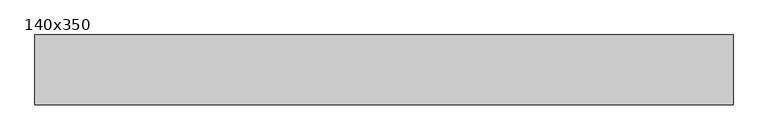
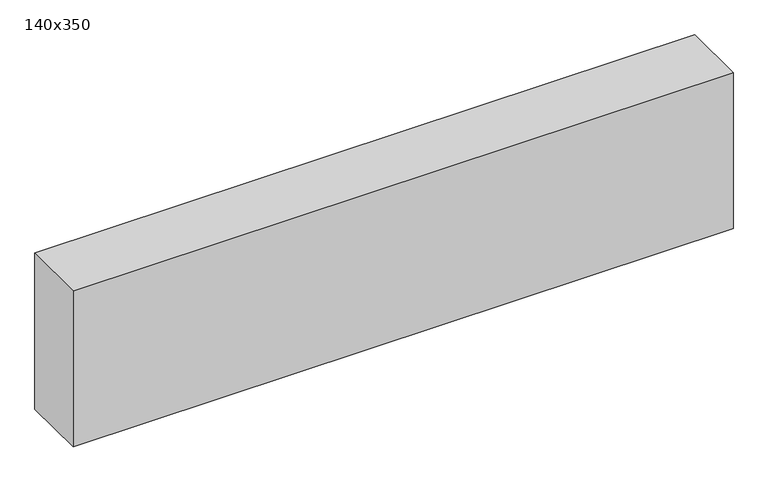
"""IFC4 building model written with IfcOpenShell, lengths in millimetres: beam geometry, Bjelke Limtre Stiplet : 140x350."""

from ifc_helpers import new_model, si_unit, frame, origin, place, context, project, spatial, polyline, outline, extrude, source, transform, mapped, element, save


def beam_140x350_4839d944(model_context):
    return source(origin(), model_context, "Body", "SweptSolid", [
        extrude(outline(polyline([(23.2621559, 70.0), (23.2621559, -70.0), (-1376.8648243, -70.0), (-1376.8648243, 70.0), (23.2621559, 70.0)])), frame((0.0, 0.0, -301.0), z_axis=(0.0, 0.0, 1.0), x_axis=(1.0, 0.0, 0.0)), (0.0, 0.0, 1.0), 350.0),
    ])


if __name__ == "__main__":
    model = new_model("IFC4")
    model_context = context("Model", 3, world=origin())
    ifc_project = project(units=[si_unit("LENGTHUNIT", "METRE", prefix="MILLI")], contexts=[model_context])
    site = spatial("IfcSite", under=ifc_project)
    building = spatial("IfcBuilding", under=site)
    placement = place(None, origin())
    beam_140x350_shape = beam_140x350_4839d944(model_context)
    element("IfcBeam", 1, ObjectType="Bjelke Limtre Stiplet : 140x350", at=placement, inside=building, context=model_context, shape_type="MappedRepresentation", body=[
        mapped(beam_140x350_shape, transform((0.0, 0.0, 0.0), x_axis=(1.0, 0.0, 0.0), y_axis=(0.0, 1.0, 0.0), z_axis=(0.0, 0.0, 1.0))),
    ])
    save(model, "model.ifc")
